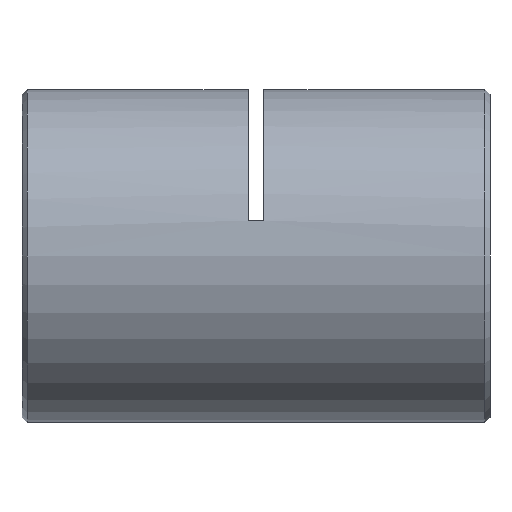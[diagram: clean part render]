
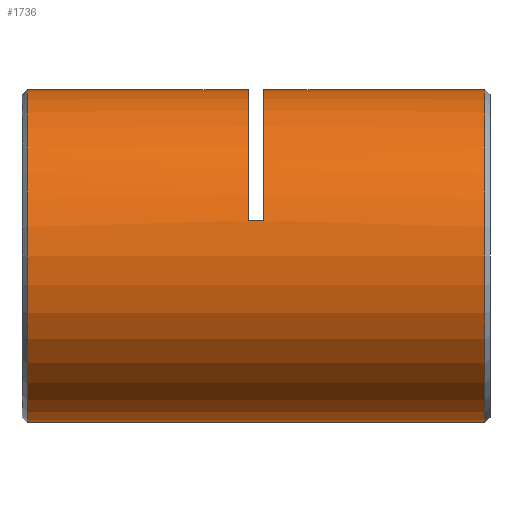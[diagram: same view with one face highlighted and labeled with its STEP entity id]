
A CAD part, left-side view. The second image highlights one B-rep face of the part: STEP entity #1736.
In plain terms, the highlighted cylindrical face has radius 16 mm (diameter 32 mm), a partial arc.
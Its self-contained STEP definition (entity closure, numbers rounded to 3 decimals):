
#165 = ORIENTED_EDGE ( 'NONE', *, *, #3289, .T. ) ;
#176 = CIRCLE ( 'NONE', #1200, 16. ) ;
#182 = CARTESIAN_POINT ( 'NONE',  ( -15.632, 22.75, 3.413 ) ) ;
#240 = LINE ( 'NONE', #2720, #3741 ) ;
#261 = AXIS2_PLACEMENT_3D ( 'NONE', #6227, #1799, #5294 ) ;
#436 = CARTESIAN_POINT ( 'NONE',  ( 0., 0., 0. ) ) ;
#542 = CYLINDRICAL_SURFACE ( 'NONE', #2021, 16. ) ;
#742 = VERTEX_POINT ( 'NONE', #2226 ) ;
#786 = ORIENTED_EDGE ( 'NONE', *, *, #1560, .T. ) ;
#800 = DIRECTION ( 'NONE',  ( 0., 1., 0. ) ) ;
#826 = DIRECTION ( 'NONE',  ( 0., 0., 1. ) ) ;
#946 = CARTESIAN_POINT ( 'NONE',  ( 0., 23.5, 0. ) ) ;
#1079 = VECTOR ( 'NONE', #1844, 1000. ) ;
#1107 = VERTEX_POINT ( 'NONE', #1277 ) ;
#1149 = EDGE_CURVE ( 'NONE', #3316, #1107, #2378, .T. ) ;
#1192 = CIRCLE ( 'NONE', #261, 16. ) ;
#1200 = AXIS2_PLACEMENT_3D ( 'NONE', #5346, #800, #2877 ) ;
#1276 = CIRCLE ( 'NONE', #4882, 16. ) ;
#1277 = CARTESIAN_POINT ( 'NONE',  ( 0., 44.75, -16. ) ) ;
#1318 = VERTEX_POINT ( 'NONE', #4462 ) ;
#1560 = EDGE_CURVE ( 'NONE', #5254, #3820, #240, .T. ) ;
#1670 = EDGE_CURVE ( 'NONE', #742, #3820, #176, .T. ) ;
#1736 = ADVANCED_FACE ( 'NONE', ( #3450 ), #542, .T. ) ;
#1772 = CARTESIAN_POINT ( 'NONE',  ( 0., 0.75, 0. ) ) ;
#1799 = DIRECTION ( 'NONE',  ( 0., -1., 0. ) ) ;
#1844 = DIRECTION ( 'NONE',  ( 0., 1., 0. ) ) ;
#1901 = DIRECTION ( 'NONE',  ( 0., 0., 1. ) ) ;
#1975 = DIRECTION ( 'NONE',  ( 0., 0., 1. ) ) ;
#1977 = EDGE_CURVE ( 'NONE', #742, #1318, #4626, .T. ) ;
#2021 = AXIS2_PLACEMENT_3D ( 'NONE', #436, #2476, #1975 ) ;
#2167 = DIRECTION ( 'NONE',  ( 0., 1., 0. ) ) ;
#2226 = CARTESIAN_POINT ( 'NONE',  ( -15.632, 22., 3.413 ) ) ;
#2341 = CARTESIAN_POINT ( 'NONE',  ( 0., 44.75, 16. ) ) ;
#2378 = LINE ( 'NONE', #5284, #1079 ) ;
#2476 = DIRECTION ( 'NONE',  ( 0., 1., 0. ) ) ;
#2608 = VERTEX_POINT ( 'NONE', #4900 ) ;
#2613 = CARTESIAN_POINT ( 'NONE',  ( 0., 22., 16. ) ) ;
#2644 = VECTOR ( 'NONE', #2167, 1000. ) ;
#2720 = CARTESIAN_POINT ( 'NONE',  ( 0., 0., 16. ) ) ;
#2760 = VERTEX_POINT ( 'NONE', #2341 ) ;
#2877 = DIRECTION ( 'NONE',  ( 0., 0., 1. ) ) ;
#2910 = ORIENTED_EDGE ( 'NONE', *, *, #4427, .T. ) ;
#2923 = ORIENTED_EDGE ( 'NONE', *, *, #1149, .F. ) ;
#3022 = LINE ( 'NONE', #5947, #3646 ) ;
#3076 = ORIENTED_EDGE ( 'NONE', *, *, #1977, .T. ) ;
#3161 = CARTESIAN_POINT ( 'NONE',  ( 0., 0.75, 16. ) ) ;
#3254 = AXIS2_PLACEMENT_3D ( 'NONE', #1772, #4728, #826 ) ;
#3289 = EDGE_CURVE ( 'NONE', #2608, #2760, #3022, .T. ) ;
#3316 = VERTEX_POINT ( 'NONE', #4000 ) ;
#3450 = FACE_OUTER_BOUND ( 'NONE', #4671, .T. ) ;
#3646 = VECTOR ( 'NONE', #5906, 1000. ) ;
#3741 = VECTOR ( 'NONE', #4691, 1000. ) ;
#3820 = VERTEX_POINT ( 'NONE', #2613 ) ;
#4000 = CARTESIAN_POINT ( 'NONE',  ( 0., 0.75, -16. ) ) ;
#4078 = EDGE_CURVE ( 'NONE', #3316, #5254, #5446, .T. ) ;
#4427 = EDGE_CURVE ( 'NONE', #1318, #2608, #1276, .T. ) ;
#4462 = CARTESIAN_POINT ( 'NONE',  ( -15.632, 23.5, 3.413 ) ) ;
#4626 = LINE ( 'NONE', #182, #2644 ) ;
#4671 = EDGE_LOOP ( 'NONE', ( #2923, #5122, #786, #5342, #3076, #2910, #165, #4864 ) ) ;
#4691 = DIRECTION ( 'NONE',  ( 0., 1., 0. ) ) ;
#4728 = DIRECTION ( 'NONE',  ( 0., 1., 0. ) ) ;
#4864 = ORIENTED_EDGE ( 'NONE', *, *, #5712, .T. ) ;
#4882 = AXIS2_PLACEMENT_3D ( 'NONE', #946, #5302, #1901 ) ;
#4900 = CARTESIAN_POINT ( 'NONE',  ( 0., 23.5, 16. ) ) ;
#5122 = ORIENTED_EDGE ( 'NONE', *, *, #4078, .T. ) ;
#5254 = VERTEX_POINT ( 'NONE', #3161 ) ;
#5284 = CARTESIAN_POINT ( 'NONE',  ( 0., 0., -16. ) ) ;
#5294 = DIRECTION ( 'NONE',  ( 0., 0., -1. ) ) ;
#5302 = DIRECTION ( 'NONE',  ( 0., 1., 0. ) ) ;
#5342 = ORIENTED_EDGE ( 'NONE', *, *, #1670, .F. ) ;
#5346 = CARTESIAN_POINT ( 'NONE',  ( 0., 22., 0. ) ) ;
#5446 = CIRCLE ( 'NONE', #3254, 16. ) ;
#5712 = EDGE_CURVE ( 'NONE', #2760, #1107, #1192, .T. ) ;
#5906 = DIRECTION ( 'NONE',  ( 0., 1., 0. ) ) ;
#5947 = CARTESIAN_POINT ( 'NONE',  ( 0., 0., 16. ) ) ;
#6227 = CARTESIAN_POINT ( 'NONE',  ( 0., 44.75, 0. ) ) ;
